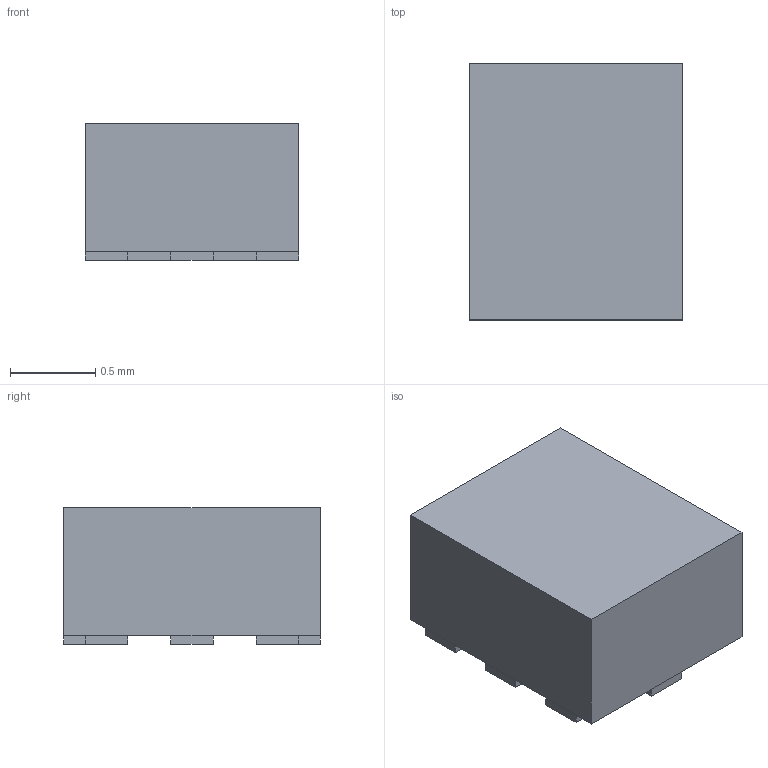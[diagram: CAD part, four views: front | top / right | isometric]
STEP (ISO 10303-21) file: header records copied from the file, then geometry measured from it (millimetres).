
FILE_DESCRIPTION(('FreeCAD Model'),'2;1');
FILE_NAME('Open CASCADE Shape Model','2026-11-12T17:17:04',('FreeCAD'),( 'FreeCAD'),'Open CASCADE STEP processor 7.8','FreeCAD','Unknown');
FILE_SCHEMA(('AUTOMOTIVE_DESIGN { 1 0 10303 214 1 1 1 1 }'));
Length unit declared in the file: millimetre
Products named in the file (1): Open CASCADE STEP translator 7.8 3
Bounding box: 1.25 x 1.5 x 0.8 mm (x, y, z)
Volume: 1.4 mm3; surface area: 9.7 mm2
Topology: 9 solids, 9 shells, 54 faces, 108 edges, 72 vertices
Faces by surface type: plane 54
Entity records: 1366 total; most frequent: CARTESIAN_POINT 235, DIRECTION 218, ORIENTED_EDGE 216, EDGE_CURVE 108, LINE 108, VECTOR 108, VERTEX_POINT 72, AXIS2_PLACEMENT_3D 55
